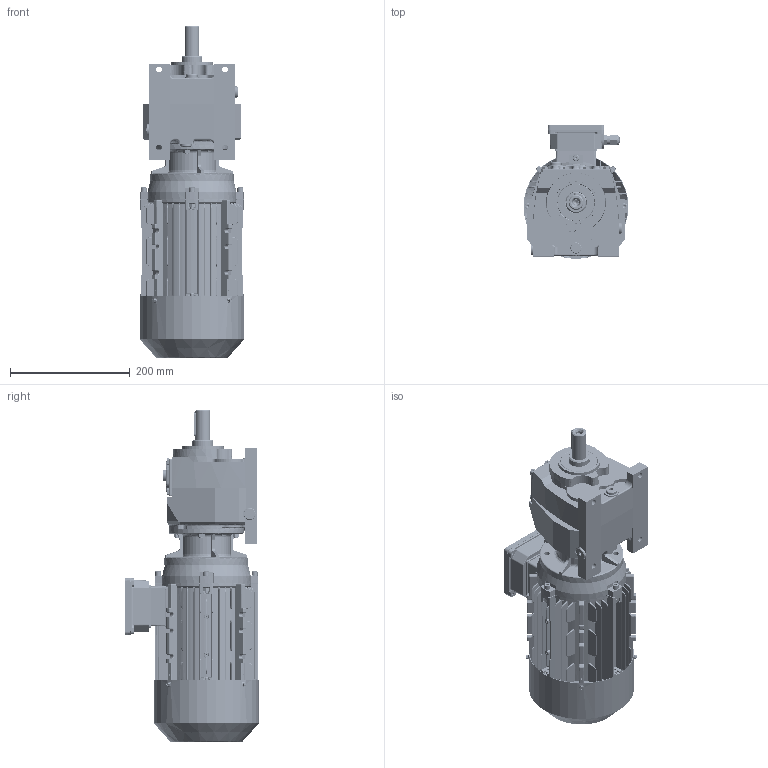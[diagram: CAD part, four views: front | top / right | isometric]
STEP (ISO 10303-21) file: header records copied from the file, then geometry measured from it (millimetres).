
FILE_DESCRIPTION (( 'STEP AP203' ), '1' );
FILE_NAME ('MV_173_0_MX-90L.STEP', '2018-11-27T08:49:42', ( '' ), ( '' ), 'SwSTEP 2.0', 'SolidWorks 2012', '' );
FILE_SCHEMA (( 'CONFIG_CONTROL_DESIGN' ));
Products named in the file (26): cross recessed pan head screws gb_GB_CROSS_SCREWS_TYPE1 M5X10-10  H type-N_1; IE3 90L grouding mark_1; cross recessed pan head screws gb_GB_CROSS_SCREWS_TYPE1 M4X5-5  H type-N_1; plain washers-n series-grade a gb_GB_FASTENER_WASHER_PWNA 4_1; IE3 90L flange_1; circlips for shaft--type a large gb_GB_CONNECTING_PIECE_RING_RRA 19_1; hexagon flange head tapping screws gb_GB_SQUARE_AND_HEXAGON_TYPE137 ST4.2X9.5 F-N_1; hexagon socket head cap screws gb_GB_FASTENER_SCREWS_HSHCS M6X30-N_1; IE3 90L terminal box_1; spring lock washers--normal type gb_GB_FASTENER_WASHER_SW 6_1; cross recessed pan head tapping screws gb_GB_CROSS_SCREWS_TYPE128 ST4.2X9.5 H C-N_1; IE3 90L terminal box cover_1; IE3 90L fan_1; IE3 90L fan cover_1; plain parallel keys_GB_CONNECTING_PIECE_KEYS_CSK 8X40_1; 1390B14_Varsayìlan; ML10A_Varsayìlan; IE3 90L rotor_1; IE3 90L casing_1; M173_Varsayìlan; MV_173_0_MX-90L; IE3 90L  oil seal_1; IE3-90L flange B14; MX3-90L_B14; hexagon nuts grade c gb_GB_FASTENER_NUT_SNC1 M6-N_1; IE3 90L cable glandsM16_1
Assembly tree (55 placements, depth 3):
  MV_173_0_MX-90L
    M173_Varsayìlan
    1390B14_Varsayìlan
    ML10A_Varsayìlan
    MX3-90L_B14
      IE3 90L casing_1
      IE3 90L rotor_1
      IE3 90L fan_1
      IE3 90L fan cover_1
      plain parallel keys_GB_CONNECTING_PIECE_KEYS_CSK 8X40_1
      IE3 90L terminal box_1
      IE3 90L terminal box cover_1
      spring lock washers--normal type gb_GB_FASTENER_WASHER_SW 6_1  x8
      cross recessed pan head tapping screws gb_GB_CROSS_SCREWS_TYPE128 ST4.2X9.5 H C-N_1  x4
      hexagon flange head tapping screws gb_GB_SQUARE_AND_HEXAGON_TYPE137 ST4.2X9.5 F-N_1  x4
      hexagon socket head cap screws gb_GB_FASTENER_SCREWS_HSHCS M6X30-N_1  x8
      IE3 90L flange_1
      circlips for shaft--type a large gb_GB_CONNECTING_PIECE_RING_RRA 19_1
      IE3 90L grouding mark_1
      plain washers-n series-grade a gb_GB_FASTENER_WASHER_PWNA 4_1
      cross recessed pan head screws gb_GB_CROSS_SCREWS_TYPE1 M4X5-5  H type-N_1
      cross recessed pan head screws gb_GB_CROSS_SCREWS_TYPE1 M5X10-10  H type-N_1  x4
      IE3 90L cable glandsM16_1  x2
      IE3 90L  oil seal_1
      hexagon nuts grade c gb_GB_FASTENER_NUT_SNC1 M6-N_1  x7
      IE3-90L flange B14
Bounding box: 175.1 x 223.05 x 553.9 mm (x, y, z)
Volume: 4657114 mm3; surface area: 1028431.3 mm2
Topology: 54 solids, 54 shells, 5382 faces, 13621 edges, 8356 vertices
Faces by surface type: plane 1936, cylinder 1625, bspline 1155, cone 512, sphere 100, torus 54
Entity records: 188917 total; most frequent: CARTESIAN_POINT 80213, ORIENTED_EDGE 23920, DIRECTION 19230, EDGE_CURVE 11960, VERTEX_POINT 7399, AXIS2_PLACEMENT_3D 7050, EDGE_LOOP 5135, VECTOR 5130
